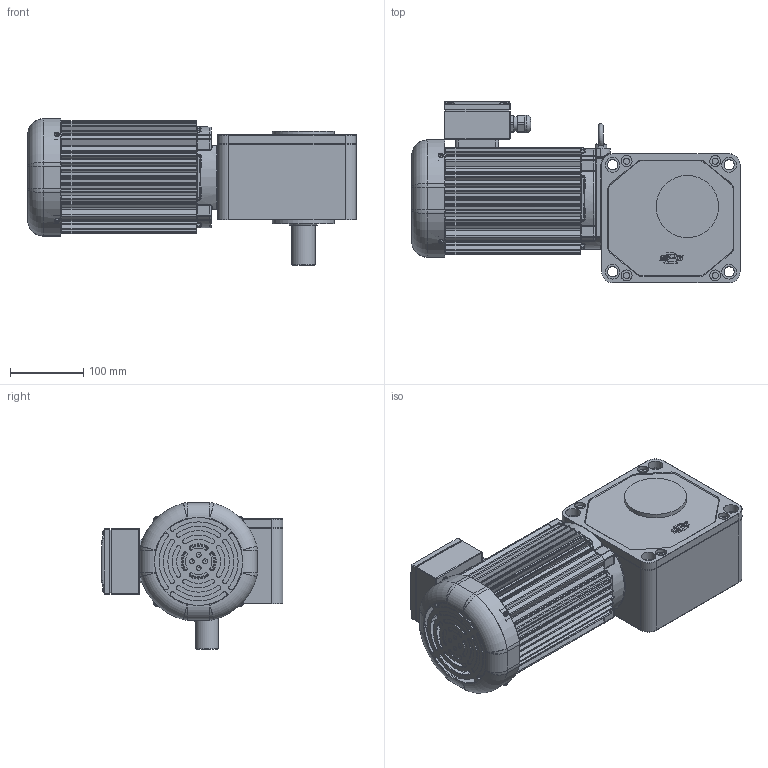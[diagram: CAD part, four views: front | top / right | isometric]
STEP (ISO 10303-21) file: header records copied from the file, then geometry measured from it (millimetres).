
FILE_DESCRIPTION(/* description */ (''),/* implementation_level */ '2;1');
FILE_NAME(/* name */ 'Z:\동력 3D 파일\PCS32R_0.75kW_3D.stp',/* time_stamp */ '2021-11-09T11:46:15+09:00',/* author */ ('jaebok'),/* organization */ (''),/* preprocessor_version */ 'ST-DEVELOPER v18.1',/* originating_system */ 'Autodesk Inventor 2022',/* authorisation */ '');
FILE_SCHEMA (('AUTOMOTIVE_DESIGN { 1 0 10303 214 3 1 1 }'));
Products named in the file (1): 부품60
Bounding box: 448 x 248 x 200.2 mm (x, y, z)
Volume: 2854430.4 mm3; surface area: 769109.7 mm2
Topology: 1 solids, 26 shells, 2114 faces, 5397 edges, 3358 vertices
Faces by surface type: plane 868, cylinder 765, bspline 204, torus 172, cone 57, sphere 48
Full cylindrical faces by diameter (mm): 3.25 x1, 3.5 x4, 3.6 x4, 4 x22, 5 x13, 6 x4, 6.647 x2, 7 x13, 8 x5, 8.5 x4, 10 x1, 12.5 x1, 14 x4, 15 x5, 18 x1, 20 x14, 20.6 x1, 21 x1, 23.6 x1, 25 x1, 30 x1, 32 x1, 36 x1, 40 x3, 44 x1, 54.5 x1, 68 x1, 72 x2, 85 x2, 125 x1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
Entity records: 72752 total; most frequent: CARTESIAN_POINT 19678, DIRECTION 10908, ORIENTED_EDGE 10686, EDGE_CURVE 5343, AXIS2_PLACEMENT_3D 4211, VERTEX_POINT 3358, LINE 2486, VECTOR 2486
